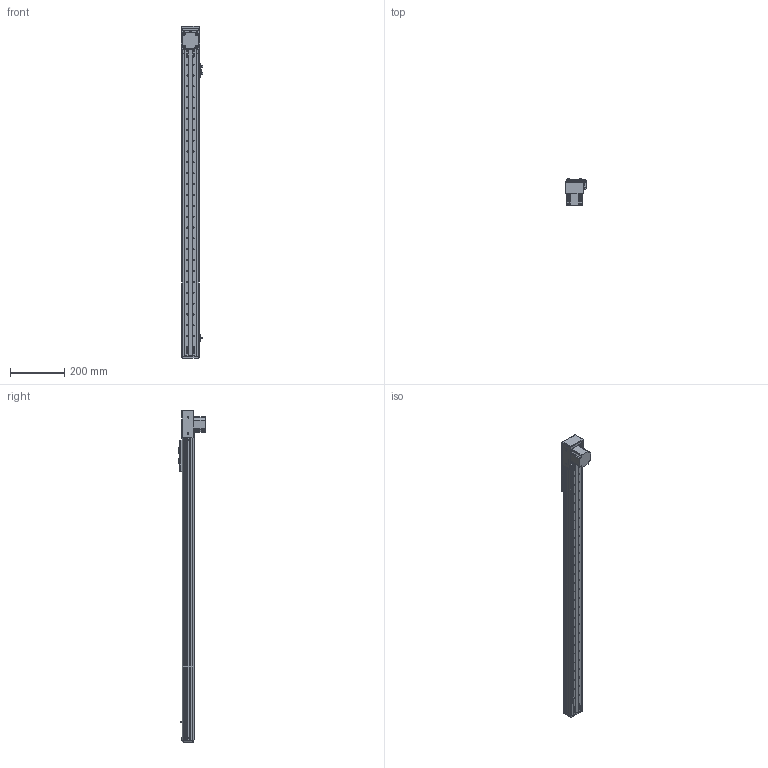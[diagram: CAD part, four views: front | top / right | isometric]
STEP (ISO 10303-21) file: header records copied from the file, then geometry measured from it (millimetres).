
FILE_DESCRIPTION (( 'STEP AP203' ), '1' );
FILE_NAME ('RY60F-T-350-DK.SLDASM_950.step', '2021-03-02T00:56:11', ( '盈信电脑' ), ( '东莞市道滘镇水果街19号' ), 'SwSTEP 2.0', 'SolidWorks 2012', '' );
FILE_SCHEMA (( 'CONFIG_CONTROL_DESIGN' ));
Length unit declared in the file: millimetre
Products named in the file (19): RY60F-T-350-DK.SLDASM_950; RY60F-T-狟殏欶; 57祭輛萇儂; RY60F-肮祭湍揤輸2; RY60F-肮祭湍揤輸; RY60F-T-下折同步带拉紧板; RY50F-350-MR15W絳寢-DK_950; RY60F-T-57萇儂奻殏假蚾啣; 滅袉蝶18-24; RY60F-350-肮祭湍滅鳥詩え-DK_950; 覜茼ん672; RY60F-350肮祭湍俋褲-DK_950; RY60F-T-下折57电机端同步轮座; RY50-60詩湍揤啣; RY60F-滅鳥詩え盓殤; RY60F-祥凄詩滅鳥裔; RY60F-嫖萇羲壽結え; RY60F-肮祭湍臏賑輸; RY60F-浮动端同步轮支撑座
Assembly tree (23 placements, depth 2):
  RY60F-T-350-DK.SLDASM_950
    RY60F-肮祭湍臏賑輸
    RY60F-浮动端同步轮支撑座
    RY60F-滅鳥詩え盓殤
    RY60F-嫖萇羲壽結え
    RY50-60詩湍揤啣  x2
    RY60F-祥凄詩滅鳥裔
    RY60F-T-下折57电机端同步轮座
    RY60F-350肮祭湍俋褲-DK_950  x2
    覜茼ん672  x3
    RY60F-350-肮祭湍滅鳥詩え-DK_950
    RY50F-350-MR15W絳寢-DK_950
    滅袉蝶18-24  x2
    RY60F-T-57萇儂奻殏假蚾啣
    RY60F-T-下折同步带拉紧板
    RY60F-肮祭湍揤輸
    RY60F-肮祭湍揤輸2
    57祭輛萇儂
    RY60F-T-狟殏欶
Bounding box: 80.76 x 96.5 x 1223 mm (x, y, z)
Volume: 1099312.5 mm3; surface area: 748331.3 mm2
Topology: 23 solids, 23 shells, 1210 faces, 3326 edges, 2140 vertices
Faces by surface type: cylinder 583, plane 546, cone 71, bspline 10
Entity records: 37461 total; most frequent: CARTESIAN_POINT 6769, DIRECTION 6084, ORIENTED_EDGE 5828, EDGE_CURVE 2914, AXIS2_PLACEMENT_3D 2163, VERTEX_POINT 1908, LINE 1758, VECTOR 1758
